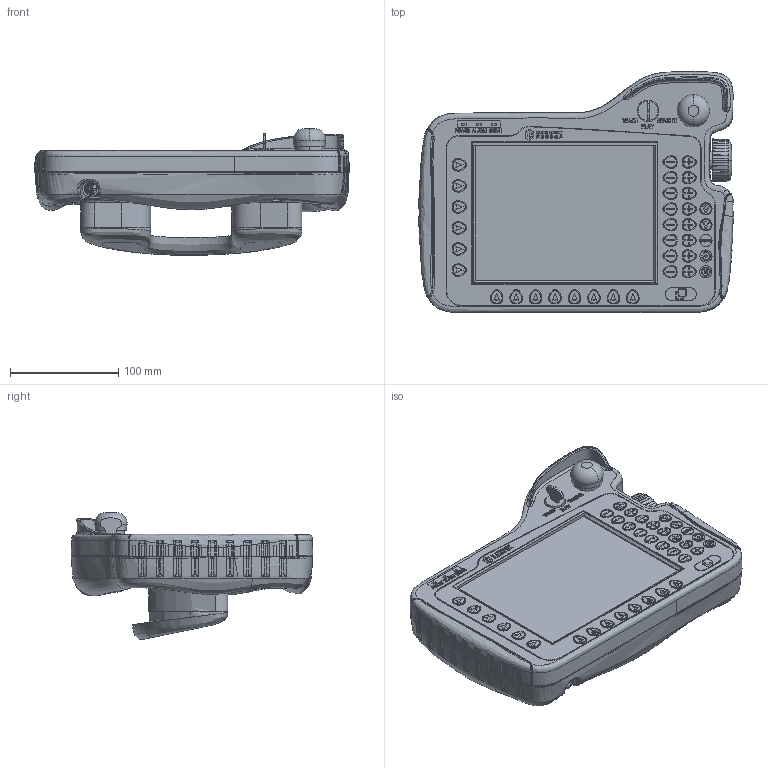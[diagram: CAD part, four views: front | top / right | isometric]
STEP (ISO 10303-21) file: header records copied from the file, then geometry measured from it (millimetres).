
FILE_DESCRIPTION (( 'STEP AP203' ), '1' );
FILE_NAME ('ERP300.STEP', '2020-08-04T11:04:42', ( '' ), ( '' ), 'SwSTEP 2.0', 'SolidWorks 2017', '' );
FILE_SCHEMA (( 'CONFIG_CONTROL_DESIGN' ));
Length unit declared in the file: millimetre
Products named in the file (23): AB6E-3BV01PRM_suojin; SJQ_heti-b_mod20170922_MODEL_1; AB6E-3BV01PRM_MODEL; SJQ_xiangjiao-dianlan_mod20170918; SJQ_heti-b_mod20170922_MODEL; B3F-1072; AS6M-3KT2AC_MODEL; AS6M-3KT2AC_MODEL_1; 12FHT-SMR-GAN-TF(HF); Film_默认è_; SJQ_anniu-b-yzb_mod_MODEL; ERP300; SJQ_yagai-dianlan_mod20170918; AB6E-3BV01PRM_MODEL_1; SJQ_baojiao-r_mod20170820; SJQ_heti-t_mod20170923; SJQ_chumobi_mod; AS6M-3KT2AC-suojin; SJQ_chumoping_mod; SJQ_baojiao-l_mod20170820; SJQ_anniu-b-yzb_mod_MODEL_1; SJQ_shouchi_mod20170923; SJQ_shoulun-xuanniu_mod20170820
Assembly tree (29 placements, depth 3):
  ERP300
    SJQ_anniu-b-yzb_mod_MODEL_1
      B3F-1072  x8
      12FHT-SMR-GAN-TF(HF)
      SJQ_anniu-b-yzb_mod_MODEL
    SJQ_chumoping_mod
    AS6M-3KT2AC_MODEL_1
      AS6M-3KT2AC-suojin
      AS6M-3KT2AC_MODEL
    AB6E-3BV01PRM_MODEL_1
      AB6E-3BV01PRM_suojin
      AB6E-3BV01PRM_MODEL
    SJQ_chumobi_mod
    SJQ_baojiao-r_mod20170820
    SJQ_baojiao-l_mod20170820
    SJQ_shoulun-xuanniu_mod20170820
    SJQ_heti-t_mod20170923
    SJQ_heti-b_mod20170922_MODEL_1
      SJQ_shouchi_mod20170923
      SJQ_heti-b_mod20170922_MODEL
    SJQ_xiangjiao-dianlan_mod20170918
    SJQ_yagai-dianlan_mod20170918
    Film_默认è_
Bounding box: 291.19 x 223.49 x 117.36 mm (x, y, z)
Volume: 363846.6 mm3; surface area: 480550.4 mm2
Topology: 80 solids, 83 shells, 6769 faces, 19122 edges, 12697 vertices
Faces by surface type: bspline 3632, plane 2505, cylinder 524, cone 106, torus 2
Full cylindrical faces by diameter (mm): 3.4 x1
Entity records: 545368 total; most frequent: CARTESIAN_POINT 405975, ORIENTED_EDGE 36127, EDGE_CURVE 18080, DIRECTION 15049, VERTEX_POINT 12057, B_SPLINE_CURVE_WITH_KNOTS 9506, VECTOR 7505, LINE 7505
